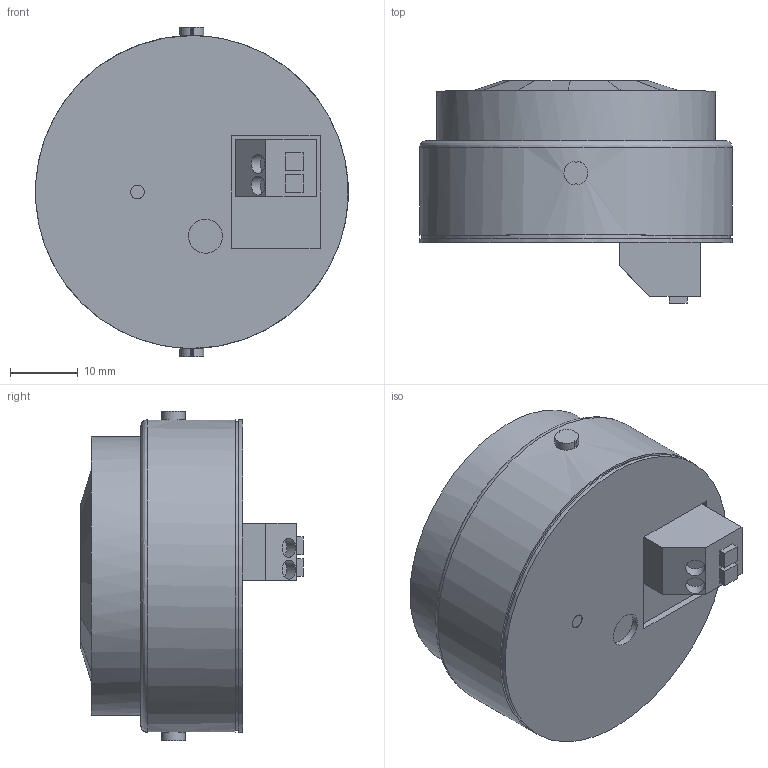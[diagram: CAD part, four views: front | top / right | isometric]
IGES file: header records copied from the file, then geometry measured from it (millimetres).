
Global section: file name: 15013194_00a; native system: Autodesk Inventor 2017; preprocessor: unknown; author: muell; date: 20190414.214754; units: millimetre
Bounding box: 45.96 x 32.7 x 48.4 mm (x, y, z)
Volume: 34153.7 mm3; surface area: 9810.4 mm2
Topology: 2 solids, 3 shells, 116 faces, 298 edges, 202 vertices
Faces by surface type: bspline 116
